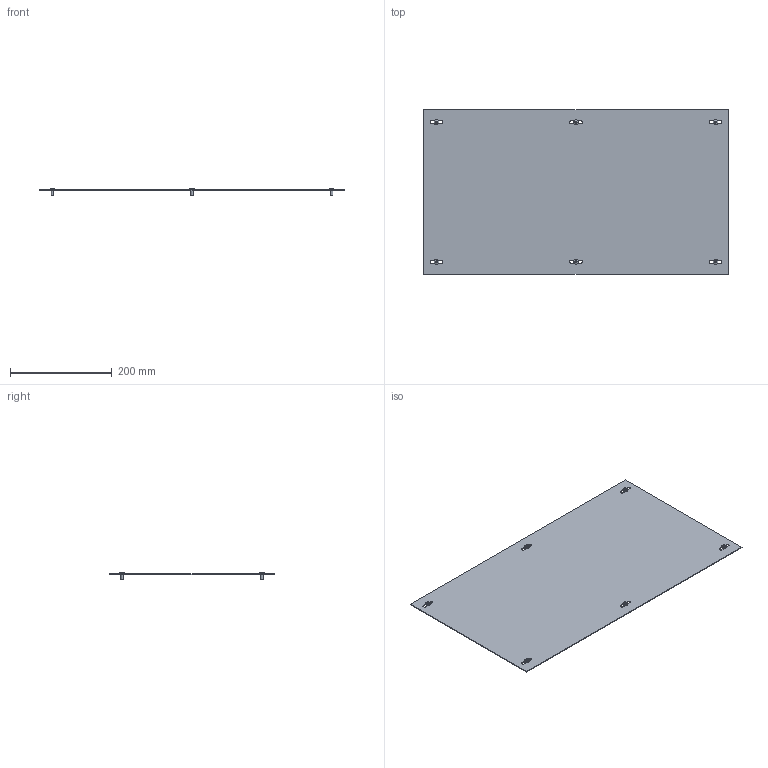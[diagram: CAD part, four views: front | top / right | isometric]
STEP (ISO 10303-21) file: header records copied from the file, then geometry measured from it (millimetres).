
FILE_DESCRIPTION(('Open CASCADE Model'),'2;1');
FILE_NAME('Open CASCADE Shape Model','2025-03-28T17:53:17',('Author'),( 'Open CASCADE'),'Open CASCADE STEP processor 7.8','Open CASCADE 7.8' ,'Unknown');
FILE_SCHEMA(('AUTOMOTIVE_DESIGN { 1 0 10303 214 1 1 1 1 }'));
Length unit declared in the file: millimetre
Products named in the file (3): Compound1; Solid1; Solid2
Assembly tree (7 placements, depth 2):
  Compound1
    Solid1
    Solid2  x6
Bounding box: 600 x 325 x 15.56 mm (x, y, z)
Volume: 293663.5 mm3; surface area: 394001.3 mm2
Topology: 7 solids, 7 shells, 126 faces, 264 edges, 158 vertices
Faces by surface type: plane 66, cylinder 24, torus 12, cone 12, sphere 6, bspline 6
Full cylindrical faces by diameter (mm): 5 x6, 9.5 x6
Entity records: 1804 total; most frequent: CARTESIAN_POINT 612, DIRECTION 242, ORIENTED_EDGE 226, EDGE_CURVE 113, AXIS2_PLACEMENT_3D 91, VERTEX_POINT 73, FACE_BOUND 60, EDGE_LOOP 60
